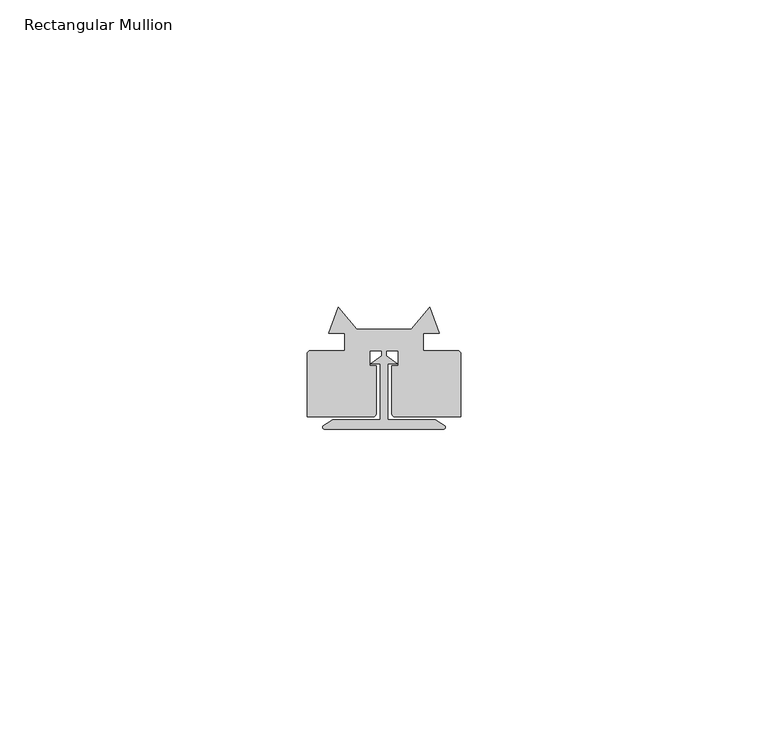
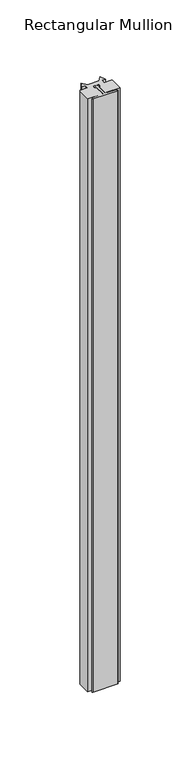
"""IFC4 building model written with IfcOpenShell, lengths in millimetres: member geometry, Rectangular Mullion : QO-V-01_01 Joint."""

from ifc_helpers import new_model, si_unit, point, frame, frame_2d, origin, place, context, project, spatial, polyline, circle_curve, trimmed, segment, composite_curve, outline, extrude, source, transform, mapped, element, save


def rectangular_mullion_4b9d97d2(model_context):
    return source(origin(), model_context, "Body", "SweptSolid", [
        extrude(outline(composite_curve([segment(polyline([(0.6475876, 34.6160805), (0.6475876, 25.5027713), (8.3158634, 25.5027713), (9.8478388, 24.5783623)]), True, "CONTINUOUS"), segment(trimmed(circle_curve(frame_2d((9.6876801, 24.3129396)), 0.31), [point((9.8478388, 24.5783623))], [point((9.6876801, 24.0029396))], False, "CARTESIAN"), True, "CONTINUOUS"), segment(polyline([(9.6876801, 24.0029396), (-9.6923428, 24.0029396)]), True, "CONTINUOUS"), segment(trimmed(circle_curve(frame_2d((-9.6923428, 24.3129396)), 0.31), [point((-9.6923428, 24.0029396))], [point((-9.8525015, 24.5783623))], False, "CARTESIAN"), True, "CONTINUOUS"), segment(polyline([(-9.8525015, 24.5783623), (-8.3205261, 25.5027713), (-0.6524124, 25.5027713), (-0.6524124, 34.6160805), (-2.1674381, 34.6160805), (-0.3546092, 35.9759407), (-0.3546092, 36.7759407), (-2.3561345, 36.7759407), (-2.3561345, 34.317153), (-1.2879019, 34.317153), (-1.2879019, 26.5392087)]), True, "CONTINUOUS"), segment(trimmed(circle_curve(frame_2d((-1.7872786, 26.5150144)), 0.4999625), [point((-1.2879019, 26.5392087))], [point((-1.7872786, 26.0150519))], False, "CARTESIAN"), True, "CONTINUOUS"), segment(polyline([(-1.7872786, 26.0150519), (-12.5010847, 26.0150519), (-12.5010847, 36.190378)]), True, "CONTINUOUS"), segment(trimmed(circle_curve(frame_2d((-11.9010847, 36.190378)), 0.6), [point((-12.5010847, 36.190378))], [point((-11.9010847, 36.790378))], False, "CARTESIAN"), True, "CONTINUOUS"), segment(polyline([(-11.9010847, 36.790378), (-6.362561, 36.790378), (-6.362561, 39.6058207), (-8.961162, 39.6058207), (-7.4224126, 43.8493822), (-4.3991903, 40.3004498), (4.3943655, 40.3004498), (7.4175879, 43.8493822), (8.9563372, 39.6058207), (6.3577362, 39.6058207), (6.3577362, 36.790378), (11.8962599, 36.790378)]), True, "CONTINUOUS"), segment(trimmed(circle_curve(frame_2d((11.8962599, 36.190378)), 0.6), [point((11.8962599, 36.790378))], [point((12.4962599, 36.190378))], False, "CARTESIAN"), True, "CONTINUOUS"), segment(polyline([(12.4962599, 36.190378), (12.4962599, 26.0150519), (1.7824538, 26.0150519)]), True, "CONTINUOUS"), segment(trimmed(circle_curve(frame_2d((1.7824538, 26.5150144)), 0.4999625), [point((1.7824538, 26.0150519))], [point((1.2830771, 26.5392087))], False, "CARTESIAN"), True, "CONTINUOUS"), segment(polyline([(1.2830771, 26.5392087), (1.2830771, 34.317153), (2.3513097, 34.317153), (2.3513097, 36.7759407), (0.3497844, 36.7759407), (0.3497844, 35.9759407), (2.1626133, 34.6160805), (0.6475876, 34.6160805)]), True, "CONTINUOUS")], self_intersect=False)), frame((0.0, 0.0, -485.0), z_axis=(0.0, 0.0, 1.0), x_axis=(1.0, 0.0, 0.0)), (0.0, 0.0, 1.0), 485.0),
    ])


if __name__ == "__main__":
    model = new_model("IFC4")
    model_context = context("Model", 3, world=origin())
    ifc_project = project(units=[si_unit("LENGTHUNIT", "METRE", prefix="MILLI")], contexts=[model_context])
    site = spatial("IfcSite", under=ifc_project)
    building = spatial("IfcBuilding", under=site)
    placement = place(None, origin())
    rectangular_mullion_shape = rectangular_mullion_4b9d97d2(model_context)
    element("IfcMember", 1, ObjectType="Rectangular Mullion : QO-V-01_01 Joint", at=placement, inside=building, context=model_context, shape_type="MappedRepresentation", body=[
        mapped(rectangular_mullion_shape, transform((0.0, 0.0, 0.0), x_axis=(1.0, 0.0, 0.0), y_axis=(0.0, 1.0, 0.0), z_axis=(0.0, 0.0, 1.0))),
    ])
    save(model, "model.ifc")
